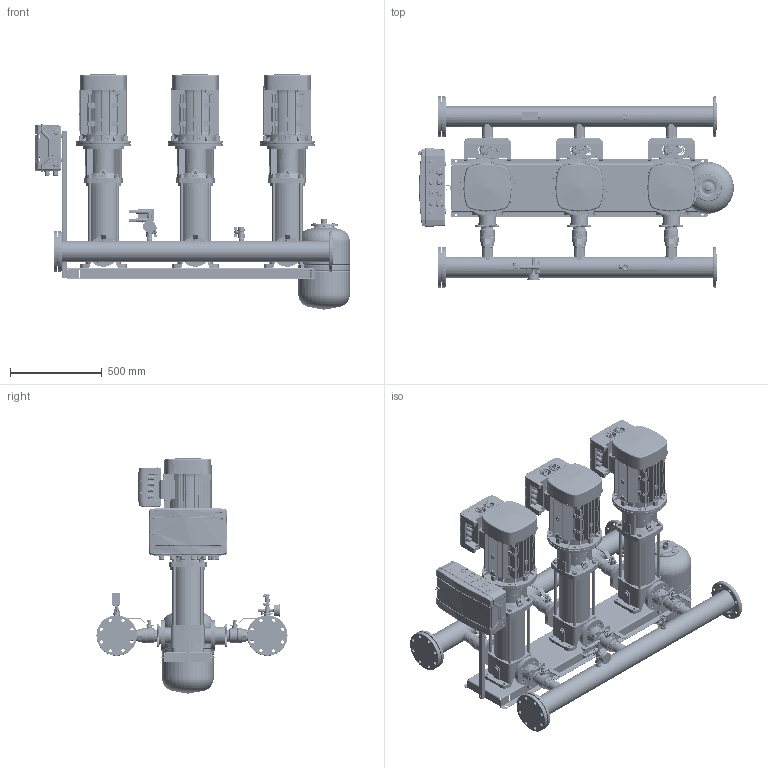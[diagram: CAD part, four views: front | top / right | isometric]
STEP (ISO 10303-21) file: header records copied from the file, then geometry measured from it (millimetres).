
FILE_DESCRIPTION(('CATIA V5 STEP Exchange','CAx-IF Rec.Pracs.--- Model Styling and Organization---1.4--- 2014-01-23','CAx-IF Rec.Pracs.---3D Tessellated Data Validation Properties---0.5---2014-09-14'),'2;1');
FILE_NAME('C:\Users\78432\YandexDisk\Drawings and 3D\3D Hydro Booster\Hydro-ME 3D\Hydro Models\Hydro ME 3 CRV15_20-xx (DIN BV)\Hydro ME 3 CRVE20-7 (DIN BV).stp','2023-09-22T09:40:54+00:00',('none'),('none'),'CATIA Version 5-6 Release 2019 SP6','CATIA V5 STEP AP242 v1','none');
FILE_SCHEMA(('AP242_MANAGED_MODEL_BASED_3D_ENGINEERING_MIM_LF {1 0 10303 442 1 1 4}'));
Products named in the file (44): Hydro ME 3 CRVE20-7 (DIN BV); 92051013; CRV20-7 set (DIN bv); CRV 20-7_A_DIN_7.5kW; Base; Sleeve; Pumphead; Staybolt.1; Staybolt.2; Staybolt.3; Staybolt.4; Plug; AirVent; Motor; 00id2584; 92802785; 99273085; SAJ PDH30 4-7,5kW; 97941454; 405801; 91040271; 91070074; 99110038; 97941491; 00ID6959; Holder and CP 18mod; 92878909; Control ME (18mod); 2 sensors + manometer cpl.; manometr 16 bar; RPD-I-G1_2; 9021-01; 2070 1/2-1/2; _2020 1/2-1/2; 98594078; Tank 24L cpl.; DN20_FF_BF_47.300.20; WAV-24(D140 1''); 9021-03; Relay cpl.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
Assembly tree (56 placements, depth 4):
  Hydro ME 3 CRVE20-7 (DIN BV)
    92051013
    CRV20-7 set (DIN bv)  x3
      CRV 20-7_A_DIN_7.5kW
        Base
        Sleeve
        Pumphead
        Staybolt.1
        Staybolt.2
        Staybolt.3
        Staybolt.4
        Plug
        AirVent
        Motor
      00id2584
      92802785
      99273085
      SAJ PDH30 4-7,5kW
    97941454  x2
      405801
      91040271
      91070074
      99110038
      97941491
    00ID6959  x2
    Holder and CP 18mod
      92878909
      Control ME (18mod)
    2 sensors + manometer cpl.
      manometr 16 bar
      RPD-I-G1_2  x2
      9021-01
      2070 1/2-1/2
      _2020 1/2-1/2
      98594078
    Tank 24L cpl.
      DN20_FF_BF_47.300.20
      9021-03
    Relay cpl.
      Relay RD-2R
      DN20_FF_BF_47.300.20
      2530 3/4-1/2
      _2530 1/2-1/4
    91078139
  WAV-24(D140 1'')
Bounding box: 1716.82 x 1039.37 x 1285.33 mm (x, y, z)
Volume: 95579082.2 mm3; surface area: 14467400 mm2
Topology: 318 solids, 405 shells, 32798 faces, 109816 edges, 78747 vertices
Faces by surface type: plane 13264, cylinder 9072, bspline 7413, cone 2058, torus 742, sphere 249
Entity records: 727919 total; most frequent: CARTESIAN_POINT 384719, ORIENTED_EDGE 90103, EDGE_CURVE 45592, DIRECTION 39375, VERTEX_POINT 31325, B_SPLINE_CURVE_WITH_KNOTS 19675, VECTOR 18468, LINE 18468
